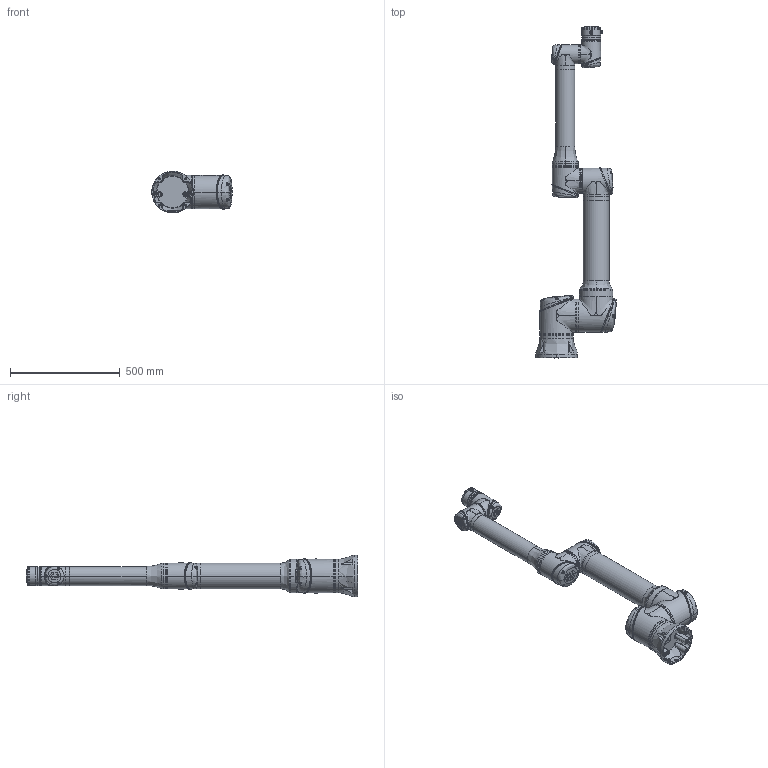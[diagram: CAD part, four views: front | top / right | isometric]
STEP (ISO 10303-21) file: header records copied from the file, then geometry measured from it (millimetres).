
FILE_DESCRIPTION (( 'STEP AP214' ), '1' );
FILE_NAME ('CS_掛极CS612A_V1.3.STEP', '2025-11-17T09:48:02', ( '' ), ( '' ), 'SwSTEP 2.0', 'SolidWorks 2020', '' );
FILE_SCHEMA (( 'AUTOMOTIVE_DESIGN' ));
Length unit declared in the file: millimetre
Products named in the file (8): CS612F藺傷; CS612A_Base; CS612A_Link4-2; CS612A_Link3; CS612A_Link5; CS612A_Link2; CS_掛极CS612A_V1.3; CS612A_Link1
Assembly tree (7 placements, depth 2):
  CS_掛极CS612A_V1.3
    CS612A_Base
    CS612A_Link1
    CS612A_Link2
    CS612A_Link3
    CS612A_Link4-2
    CS612A_Link5
    CS612F藺傷
Bounding box: 366.83 x 1515.5 x 189.7 mm (x, y, z)
Volume: 21325716.5 mm3; surface area: 1394334.4 mm2
Topology: 89 solids, 110 shells, 5504 faces, 13190 edges, 7889 vertices
Faces by surface type: bspline 2279, plane 1407, cylinder 1099, cone 410, torus 190, sphere 119
Entity records: 549531 total; most frequent: CARTESIAN_POINT 439436, ORIENTED_EDGE 25778, DIRECTION 17586, EDGE_CURVE 12889, VERTEX_POINT 7866, AXIS2_PLACEMENT_3D 7311, EDGE_LOOP 5859, FACE_OUTER_BOUND 5505
